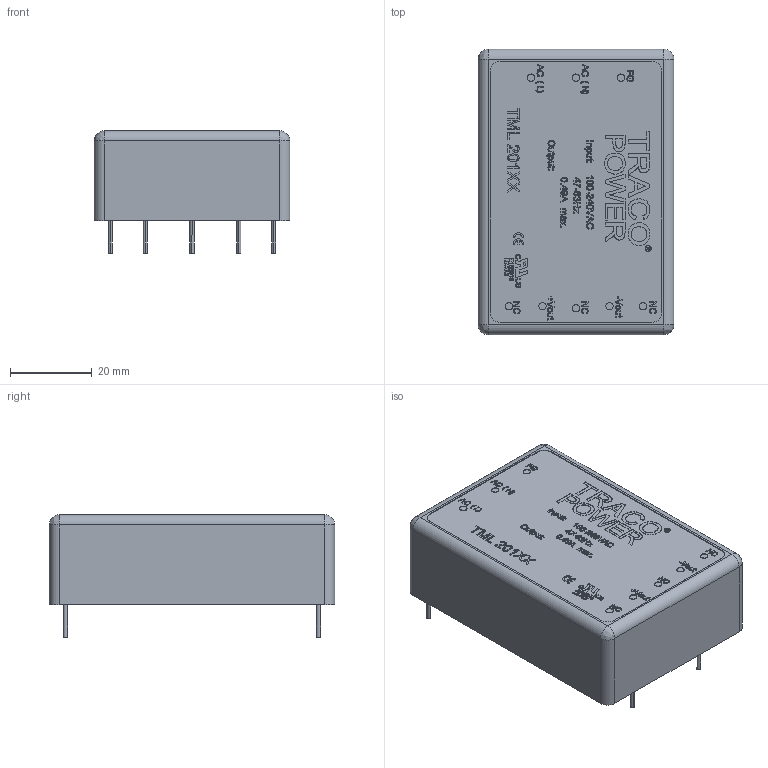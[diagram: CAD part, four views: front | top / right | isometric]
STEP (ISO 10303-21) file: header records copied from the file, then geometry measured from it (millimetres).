
FILE_DESCRIPTION (( 'STEP AP214' ), '1' );
FILE_NAME ('tml20-single.STEP', '2015-02-19T14:20:39', ( '' ), ( '' ), 'SwSTEP 2.0', 'SolidWorks 2013', '' );
FILE_SCHEMA (( 'AUTOMOTIVE_DESIGN' ));
Length unit declared in the file: millimetre
Products named in the file (5): TML20; tml20_single; TML20 B; TML20 T; tml20-single
Assembly tree (4 placements, depth 3):
  tml20-single
    TML20
      TML20 T
      TML20 B
      tml20_single
Bounding box: 48 x 70 x 30 mm (x, y, z)
Volume: 10517.2 mm3; surface area: 29169.2 mm2
Topology: 2 solids, 3 shells, 1472 faces, 3898 edges, 2582 vertices
Faces by surface type: plane 907, bspline 475, cylinder 90
Entity records: 104363 total; most frequent: CARTESIAN_POINT 54516, ORIENTED_EDGE 7774, DIRECTION 5186, EDGE_CURVE 3890, LINE 2770, VECTOR 2770, VERTEX_POINT 2582, EDGE_LOOP 1649
